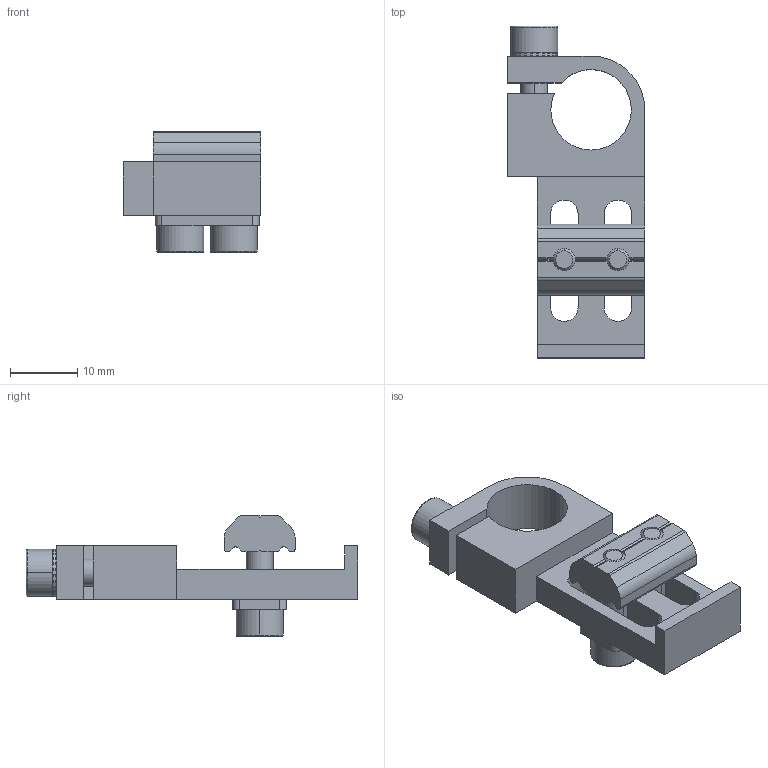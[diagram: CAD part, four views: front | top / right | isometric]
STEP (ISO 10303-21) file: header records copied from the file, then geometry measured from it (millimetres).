
FILE_DESCRIPTION (( 'STEP AP214' ), '1' );
FILE_NAME ('SMBE-1214.STEP', '2019-12-02T01:11:59', ( '微软用户' ), ( '微软中国' ), 'SwSTEP 2.0', 'SolidWorks 2016', '' );
FILE_SCHEMA (( 'AUTOMOTIVE_DESIGN' ));
Length unit declared in the file: millimetre
Products named in the file (1): SMBE-1214
Bounding box: 20.5 x 49.5 x 18 mm (x, y, z)
Volume: 4883.8 mm3; surface area: 5026.7 mm2
Topology: 7 solids, 7 shells, 345 faces, 970 edges, 640 vertices
Faces by surface type: plane 275, cylinder 58, cone 6, bspline 6
Entity records: 15504 total; most frequent: CARTESIAN_POINT 2520, ORIENTED_EDGE 1940, DIRECTION 1904, EDGE_CURVE 970, VERTEX_POINT 640, AXIS2_PLACEMENT_3D 638, VECTOR 628, LINE 628
